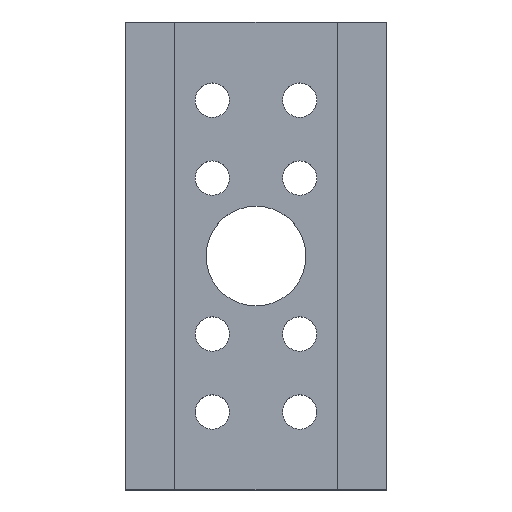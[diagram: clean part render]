
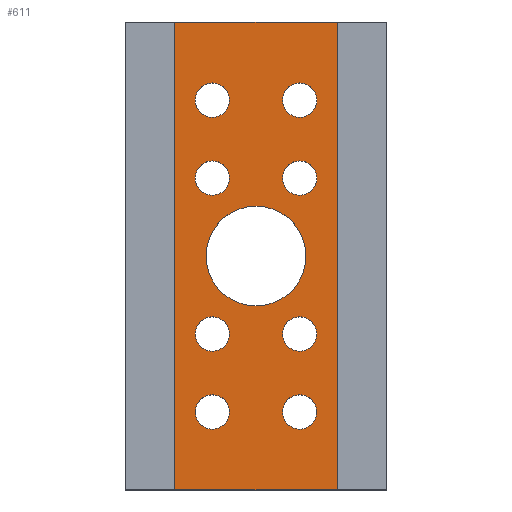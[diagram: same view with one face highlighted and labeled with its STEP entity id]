
A CAD part, top view. The second image highlights one B-rep face of the part: STEP entity #611.
In plain terms, the highlighted planar face has unit normal (0, 0, 1).
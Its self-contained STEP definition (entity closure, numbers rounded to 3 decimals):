
#20=FACE_BOUND('',#110,.T.);
#21=FACE_BOUND('',#111,.T.);
#22=FACE_BOUND('',#112,.T.);
#23=FACE_BOUND('',#113,.T.);
#24=FACE_BOUND('',#114,.T.);
#25=FACE_BOUND('',#115,.T.);
#26=FACE_BOUND('',#116,.T.);
#27=FACE_BOUND('',#117,.T.);
#28=FACE_BOUND('',#118,.T.);
#55=PLANE('',#674);
#75=FACE_OUTER_BOUND('',#109,.T.);
#109=EDGE_LOOP('',(#471,#472,#473,#474));
#110=EDGE_LOOP('',(#475));
#111=EDGE_LOOP('',(#476));
#112=EDGE_LOOP('',(#477));
#113=EDGE_LOOP('',(#478));
#114=EDGE_LOOP('',(#479));
#115=EDGE_LOOP('',(#480));
#116=EDGE_LOOP('',(#481));
#117=EDGE_LOOP('',(#482));
#118=EDGE_LOOP('',(#483));
#169=LINE('',#952,#212);
#176=LINE('',#966,#219);
#177=LINE('',#968,#220);
#178=LINE('',#969,#221);
#212=VECTOR('',#783,10.);
#219=VECTOR('',#794,10.);
#220=VECTOR('',#795,10.);
#221=VECTOR('',#796,10.);
#265=CIRCLE('',#675,2.75);
#266=CIRCLE('',#676,2.75);
#267=CIRCLE('',#677,2.75);
#268=CIRCLE('',#678,2.75);
#269=CIRCLE('',#679,2.75);
#270=CIRCLE('',#680,8.);
#271=CIRCLE('',#681,2.75);
#272=CIRCLE('',#682,2.75);
#273=CIRCLE('',#683,2.75);
#303=VERTEX_POINT('',#950);
#304=VERTEX_POINT('',#951);
#309=VERTEX_POINT('',#965);
#310=VERTEX_POINT('',#967);
#311=VERTEX_POINT('',#970);
#312=VERTEX_POINT('',#972);
#313=VERTEX_POINT('',#974);
#314=VERTEX_POINT('',#976);
#315=VERTEX_POINT('',#978);
#316=VERTEX_POINT('',#980);
#317=VERTEX_POINT('',#982);
#318=VERTEX_POINT('',#984);
#319=VERTEX_POINT('',#986);
#367=EDGE_CURVE('',#303,#304,#169,.T.);
#374=EDGE_CURVE('',#304,#309,#176,.T.);
#375=EDGE_CURVE('',#309,#310,#177,.T.);
#376=EDGE_CURVE('',#310,#303,#178,.T.);
#377=EDGE_CURVE('',#311,#311,#265,.T.);
#378=EDGE_CURVE('',#312,#312,#266,.T.);
#379=EDGE_CURVE('',#313,#313,#267,.T.);
#380=EDGE_CURVE('',#314,#314,#268,.T.);
#381=EDGE_CURVE('',#315,#315,#269,.T.);
#382=EDGE_CURVE('',#316,#316,#270,.T.);
#383=EDGE_CURVE('',#317,#317,#271,.T.);
#384=EDGE_CURVE('',#318,#318,#272,.T.);
#385=EDGE_CURVE('',#319,#319,#273,.T.);
#471=ORIENTED_EDGE('',*,*,#367,.T.);
#472=ORIENTED_EDGE('',*,*,#374,.T.);
#473=ORIENTED_EDGE('',*,*,#375,.T.);
#474=ORIENTED_EDGE('',*,*,#376,.T.);
#475=ORIENTED_EDGE('',*,*,#377,.T.);
#476=ORIENTED_EDGE('',*,*,#378,.T.);
#477=ORIENTED_EDGE('',*,*,#379,.T.);
#478=ORIENTED_EDGE('',*,*,#380,.T.);
#479=ORIENTED_EDGE('',*,*,#381,.T.);
#480=ORIENTED_EDGE('',*,*,#382,.T.);
#481=ORIENTED_EDGE('',*,*,#383,.T.);
#482=ORIENTED_EDGE('',*,*,#384,.T.);
#483=ORIENTED_EDGE('',*,*,#385,.T.);
#611=ADVANCED_FACE('',(#75,#20,#21,#22,#23,#24,#25,#26,#27,#28),#55,.T.);
#674=AXIS2_PLACEMENT_3D('',#964,#792,#793);
#675=AXIS2_PLACEMENT_3D('',#971,#797,#798);
#676=AXIS2_PLACEMENT_3D('',#973,#799,#800);
#677=AXIS2_PLACEMENT_3D('',#975,#801,#802);
#678=AXIS2_PLACEMENT_3D('',#977,#803,#804);
#679=AXIS2_PLACEMENT_3D('',#979,#805,#806);
#680=AXIS2_PLACEMENT_3D('',#981,#807,#808);
#681=AXIS2_PLACEMENT_3D('',#983,#809,#810);
#682=AXIS2_PLACEMENT_3D('',#985,#811,#812);
#683=AXIS2_PLACEMENT_3D('',#987,#813,#814);
#783=DIRECTION('',(0.,1.,0.));
#792=DIRECTION('center_axis',(0.,0.,1.));
#793=DIRECTION('ref_axis',(1.,0.,0.));
#794=DIRECTION('',(-1.,0.,0.));
#795=DIRECTION('',(0.,-1.,0.));
#796=DIRECTION('',(1.,0.,0.));
#797=DIRECTION('center_axis',(0.,0.,-1.));
#798=DIRECTION('ref_axis',(1.,0.,0.));
#799=DIRECTION('center_axis',(0.,0.,-1.));
#800=DIRECTION('ref_axis',(1.,0.,0.));
#801=DIRECTION('center_axis',(0.,0.,-1.));
#802=DIRECTION('ref_axis',(1.,0.,0.));
#803=DIRECTION('center_axis',(0.,0.,-1.));
#804=DIRECTION('ref_axis',(1.,0.,0.));
#805=DIRECTION('center_axis',(0.,0.,-1.));
#806=DIRECTION('ref_axis',(1.,0.,0.));
#807=DIRECTION('center_axis',(0.,0.,-1.));
#808=DIRECTION('ref_axis',(1.,0.,0.));
#809=DIRECTION('center_axis',(0.,0.,-1.));
#810=DIRECTION('ref_axis',(1.,0.,0.));
#811=DIRECTION('center_axis',(0.,0.,-1.));
#812=DIRECTION('ref_axis',(1.,0.,0.));
#813=DIRECTION('center_axis',(0.,0.,-1.));
#814=DIRECTION('ref_axis',(1.,0.,0.));
#950=CARTESIAN_POINT('',(34.,0.,5.));
#951=CARTESIAN_POINT('',(34.,75.,5.));
#952=CARTESIAN_POINT('',(34.,56.25,5.));
#964=CARTESIAN_POINT('Origin',(21.,37.5,5.));
#965=CARTESIAN_POINT('',(8.,75.,5.));
#966=CARTESIAN_POINT('',(42.,75.,5.));
#967=CARTESIAN_POINT('',(8.,0.,5.));
#968=CARTESIAN_POINT('',(8.,18.75,5.));
#969=CARTESIAN_POINT('',(0.,0.,5.));
#970=CARTESIAN_POINT('',(11.25,62.5,5.));
#971=CARTESIAN_POINT('Origin',(14.,62.5,5.));
#972=CARTESIAN_POINT('',(25.25,62.5,5.));
#973=CARTESIAN_POINT('Origin',(28.,62.5,5.));
#974=CARTESIAN_POINT('',(11.25,50.,5.));
#975=CARTESIAN_POINT('Origin',(14.,50.,5.));
#976=CARTESIAN_POINT('',(25.25,50.,5.));
#977=CARTESIAN_POINT('Origin',(28.,50.,5.));
#978=CARTESIAN_POINT('',(11.25,12.5,5.));
#979=CARTESIAN_POINT('Origin',(14.,12.5,5.));
#980=CARTESIAN_POINT('',(13.,37.5,5.));
#981=CARTESIAN_POINT('Origin',(21.,37.5,5.));
#982=CARTESIAN_POINT('',(25.25,12.5,5.));
#983=CARTESIAN_POINT('Origin',(28.,12.5,5.));
#984=CARTESIAN_POINT('',(25.25,25.,5.));
#985=CARTESIAN_POINT('Origin',(28.,25.,5.));
#986=CARTESIAN_POINT('',(11.25,25.,5.));
#987=CARTESIAN_POINT('Origin',(14.,25.,5.));
